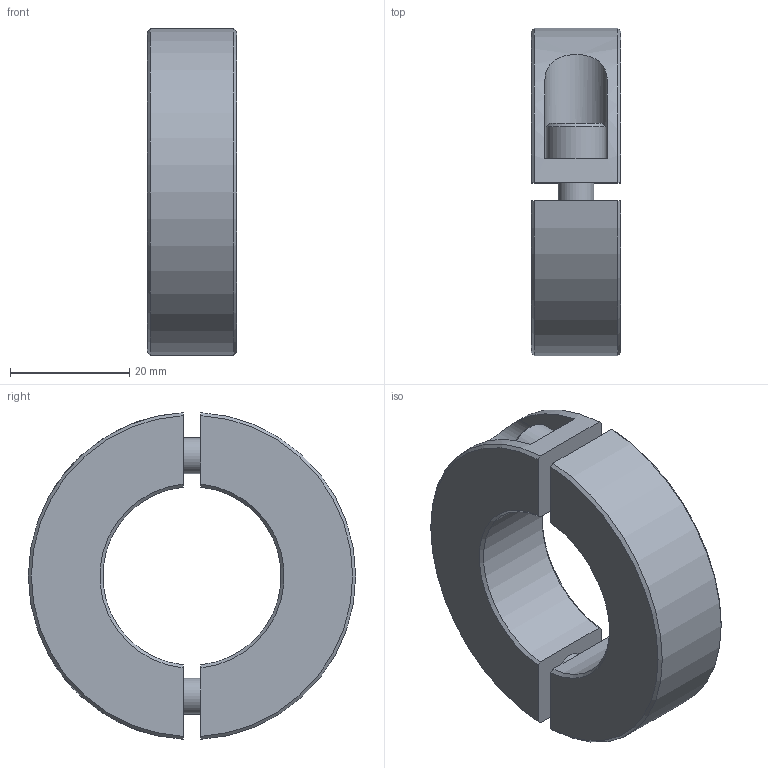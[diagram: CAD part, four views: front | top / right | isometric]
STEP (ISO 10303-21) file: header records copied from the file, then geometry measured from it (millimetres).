
FILE_DESCRIPTION(/* description */ ('STEP AP214'),/* implementation_level */ '2;1');
FILE_NAME(/* name */ 'Split Shaft Collar_ Aluminum GN 707.2-55-B30-AL',/* time_stamp */ '2024-06-10T15:26:57+02:00',/* author */ ('License CC BY-ND 4.0'),/* organization */ ('CADENAS'),/* preprocessor_version */ 'ST-DEVELOPER v19.3',/* originating_system */ 'PARTsolutions',/* authorisation */ ' ');
FILE_SCHEMA (('AUTOMOTIVE_DESIGN {1 0 10303 214 3 1 1}'));
Length unit declared in the file: millimetre
Products named in the file (1): Split Shaft Collar, Aluminum GN 707.2-55-B30-AL
Bounding box: 15 x 55 x 54.92 mm (x, y, z)
Volume: 22141.8 mm3; surface area: 9144.3 mm2
Topology: 1 solids, 3 shells, 74 faces, 172 edges, 110 vertices
Faces by surface type: plane 44, cone 16, cylinder 14
Full cylindrical faces by diameter (mm): 4.917 x2, 6 x2, 6.3 x2, 10 x2
Entity records: 2518 total; most frequent: CARTESIAN_POINT 393, DIRECTION 332, ORIENTED_EDGE 292, EDGE_CURVE 146, AXIS2_PLACEMENT_3D 129, VERTEX_POINT 104, FACE_BOUND 102, EDGE_LOOP 98
